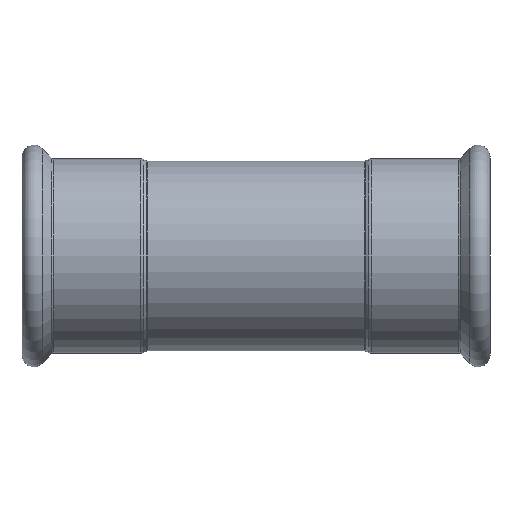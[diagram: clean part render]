
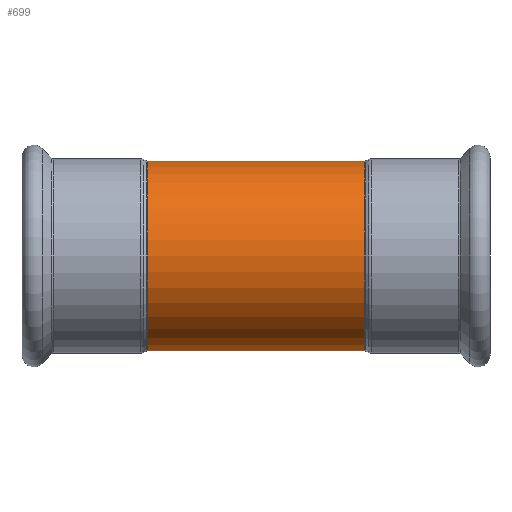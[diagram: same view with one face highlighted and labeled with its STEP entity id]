
A CAD part, front view. The second image highlights one B-rep face of the part: STEP entity #699.
In plain terms, the highlighted cylindrical face has radius 28 mm (diameter 56 mm), a partial arc.
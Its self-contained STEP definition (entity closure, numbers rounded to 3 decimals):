
#60 = AXIS2_PLACEMENT_3D ( 'NONE', #2873, #847, #199 ) ;
#125 = CARTESIAN_POINT ( 'NONE',  ( 32.06, 0., 0. ) ) ;
#175 = VERTEX_POINT ( 'NONE', #913 ) ;
#199 = DIRECTION ( 'NONE',  ( 0., 0., 1. ) ) ;
#237 = CIRCLE ( 'NONE', #60, 28. ) ;
#454 = DIRECTION ( 'NONE',  ( 0., 0., 1. ) ) ;
#699 = ADVANCED_FACE ( 'NONE', ( #4046 ), #3184, .T. ) ;
#847 = DIRECTION ( 'NONE',  ( -1., 0., 0. ) ) ;
#913 = CARTESIAN_POINT ( 'NONE',  ( -32.06, 0., 28. ) ) ;
#1096 = VERTEX_POINT ( 'NONE', #1441 ) ;
#1232 = EDGE_CURVE ( 'NONE', #4208, #2432, #2425, .T. ) ;
#1441 = CARTESIAN_POINT ( 'NONE',  ( 32.06, 0., 28. ) ) ;
#1487 = ORIENTED_EDGE ( 'NONE', *, *, #2381, .T. ) ;
#1553 = CARTESIAN_POINT ( 'NONE',  ( 27.146, 0., -28. ) ) ;
#1576 = ORIENTED_EDGE ( 'NONE', *, *, #3682, .T. ) ;
#1898 = DIRECTION ( 'NONE',  ( -1., 0., 0. ) ) ;
#2180 = DIRECTION ( 'NONE',  ( 0., 0., 1. ) ) ;
#2233 = CARTESIAN_POINT ( 'NONE',  ( 32.06, 0., -28. ) ) ;
#2260 = DIRECTION ( 'NONE',  ( -1., 0., 0. ) ) ;
#2305 = CARTESIAN_POINT ( 'NONE',  ( 27.146, 0., 28. ) ) ;
#2381 = EDGE_CURVE ( 'NONE', #4208, #1096, #3683, .T. ) ;
#2422 = CARTESIAN_POINT ( 'NONE',  ( -32.06, 0., -28. ) ) ;
#2425 = LINE ( 'NONE', #1553, #4045 ) ;
#2432 = VERTEX_POINT ( 'NONE', #2422 ) ;
#2465 = DIRECTION ( 'NONE',  ( -1., 0., 0. ) ) ;
#2646 = EDGE_LOOP ( 'NONE', ( #2796, #1487, #1576, #3282 ) ) ;
#2708 = VECTOR ( 'NONE', #2260, 1000. ) ;
#2796 = ORIENTED_EDGE ( 'NONE', *, *, #1232, .F. ) ;
#2873 = CARTESIAN_POINT ( 'NONE',  ( -32.06, 0., 0. ) ) ;
#2935 = LINE ( 'NONE', #2305, #2708 ) ;
#3062 = EDGE_CURVE ( 'NONE', #2432, #175, #237, .T. ) ;
#3184 = CYLINDRICAL_SURFACE ( 'NONE', #4055, 28. ) ;
#3256 = AXIS2_PLACEMENT_3D ( 'NONE', #125, #2465, #454 ) ;
#3282 = ORIENTED_EDGE ( 'NONE', *, *, #3062, .F. ) ;
#3470 = DIRECTION ( 'NONE',  ( -1., 0., 0. ) ) ;
#3507 = CARTESIAN_POINT ( 'NONE',  ( 27.146, 0., 0. ) ) ;
#3682 = EDGE_CURVE ( 'NONE', #1096, #175, #2935, .T. ) ;
#3683 = CIRCLE ( 'NONE', #3256, 28. ) ;
#4045 = VECTOR ( 'NONE', #3470, 1000. ) ;
#4046 = FACE_OUTER_BOUND ( 'NONE', #2646, .T. ) ;
#4055 = AXIS2_PLACEMENT_3D ( 'NONE', #3507, #1898, #2180 ) ;
#4208 = VERTEX_POINT ( 'NONE', #2233 ) ;
